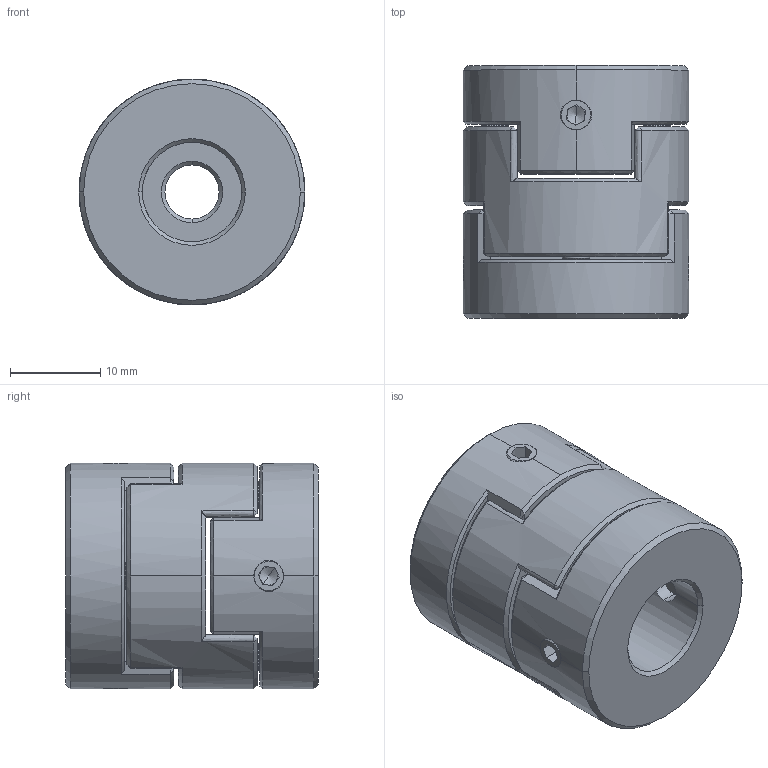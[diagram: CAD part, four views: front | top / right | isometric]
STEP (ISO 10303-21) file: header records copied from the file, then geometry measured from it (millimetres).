
FILE_DESCRIPTION (( 'STEP AP203' ), '1' );
FILE_NAME ('LZ-D-D25L28-6-11.STEP', '2021-10-30T02:12:05', ( '' ), ( '' ), 'SwSTEP 2.0', 'SolidWorks 2018', '' );
FILE_SCHEMA (( 'CONFIG_CONTROL_DESIGN' ));
Length unit declared in the file: millimetre
Products named in the file (1): LZ-D-D25L28-6-11
Bounding box: 25 x 28 x 25 mm (x, y, z)
Volume: 11270.2 mm3; surface area: 5535.3 mm2
Topology: 1 solids, 1 shells, 218 faces, 574 edges, 348 vertices
Faces by surface type: plane 88, cone 54, bspline 50, cylinder 26
Entity records: 9882 total; most frequent: CARTESIAN_POINT 4958, ORIENTED_EDGE 1132, DIRECTION 834, EDGE_CURVE 566, VERTEX_POINT 348, AXIS2_PLACEMENT_3D 303, EDGE_LOOP 234, VECTOR 228
